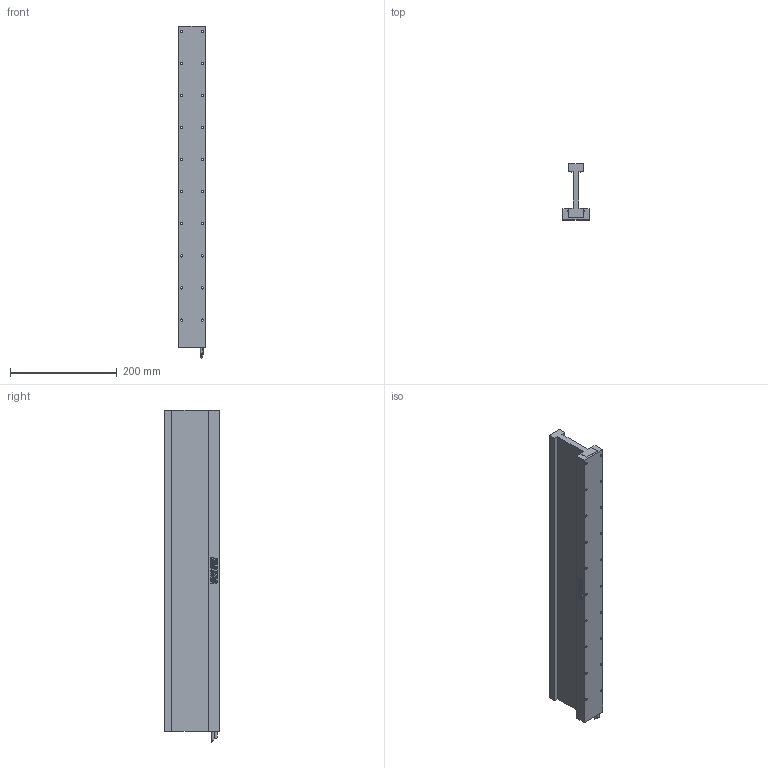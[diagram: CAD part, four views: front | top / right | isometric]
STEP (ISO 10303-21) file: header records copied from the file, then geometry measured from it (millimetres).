
FILE_DESCRIPTION (( 'STEP AP214' ), '1' );
FILE_NAME ('DX65B-C10-000.STEP', '2016-05-09T09:23:31', ( '' ), ( '' ), 'SwSTEP 2.0', 'SolidWorks 2015', '' );
FILE_SCHEMA (( 'AUTOMOTIVE_DESIGN' ));
Length unit declared in the file: millimetre
Products named in the file (5): DX65B-C10-000; CBL_MTR_PWR_SS_7C2C_SA (#2936-1); CBL_MTR_HALL_SS_5C_SA (#2935-1); DX65B-CX-002_C10; DX65B-C10-001_CUSTOMER C10
Assembly tree (4 placements, depth 2):
  DX65B-C10-000
    DX65B-C10-001_CUSTOMER C10
    DX65B-CX-002_C10
    CBL_MTR_HALL_SS_5C_SA (#2935-1)
    CBL_MTR_PWR_SS_7C2C_SA (#2936-1)
Bounding box: 49 x 104 x 621 mm (x, y, z)
Volume: 1291152.7 mm3; surface area: 285933.5 mm2
Topology: 4 solids, 4 shells, 726 faces, 1953 edges, 1302 vertices
Faces by surface type: plane 374, bspline 302, cylinder 50
Entity records: 38939 total; most frequent: CARTESIAN_POINT 21946, ORIENTED_EDGE 3906, DIRECTION 2307, EDGE_CURVE 1953, VERTEX_POINT 1302, LINE 1253, VECTOR 1253, EDGE_LOOP 833
